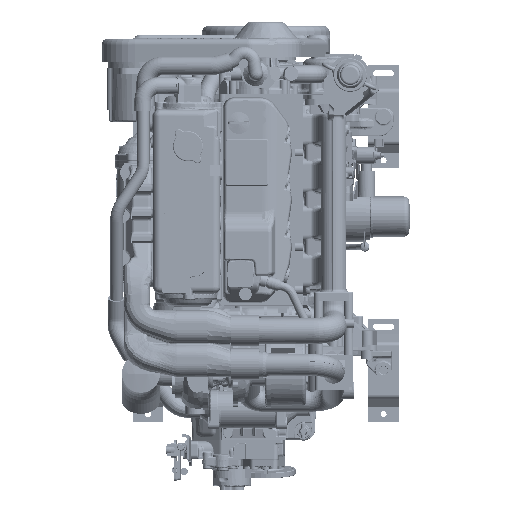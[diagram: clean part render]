
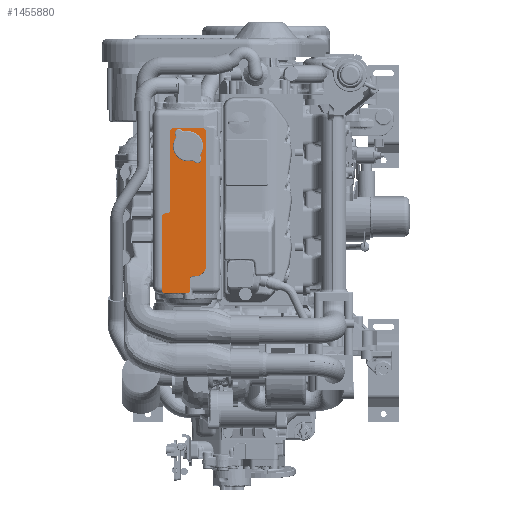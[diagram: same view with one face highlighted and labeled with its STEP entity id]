
A CAD part, top view. The second image highlights one B-rep face of the part: STEP entity #1455880.
In plain terms, the highlighted planar face has unit normal (0, 0, 1) as drawn and (0, 1, 0) by its records, which use the part's own axes.
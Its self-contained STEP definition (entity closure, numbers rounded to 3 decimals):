
#1114920=CARTESIAN_POINT('',(-202.,432.55,44.928));
#1114930=VERTEX_POINT('',#1114920);
#1115110=CARTESIAN_POINT('',(-206.828,432.55,
40.1));
#1115120=VERTEX_POINT('',#1115110);
#1115150=CARTESIAN_POINT('',(-202.,432.55,40.1));
#1115160=DIRECTION('',(0.,-1.,0.));
#1115170=DIRECTION('',(0.,0.,1.));
#1115180=AXIS2_PLACEMENT_3D('',#1115150,#1115160,#1115170);
#1115190=CIRCLE('',#1115180,4.828);
#1115200=EDGE_CURVE('',#1114930,#1115120,#1115190,.T.);
#1244810=CARTESIAN_POINT('',(-151.172,432.55,
17.5));
#1244820=VERTEX_POINT('',#1244810);
#1244900=CARTESIAN_POINT('',(-151.172,432.55,
40.1));
#1244910=VERTEX_POINT('',#1244900);
#1244940=CARTESIAN_POINT('',(-151.172,432.55,
40.15));
#1244950=DIRECTION('',(0.,0.,-1.));
#1244960=VECTOR('',#1244950,1.);
#1244970=LINE('',#1244940,#1244960);
#1244980=EDGE_CURVE('',#1244910,#1244820,#1244970,.T.);
#1299260=CARTESIAN_POINT('',(-182.5,432.55,-275.));
#1299270=DIRECTION('',(0.,-1.,0.))
;
#1299280=DIRECTION('',(0.,0.,1.));
#1299290=AXIS2_PLACEMENT_3D('',#1299260,#1299270,#1299280);
#1299300=CIRCLE('',#1299290,8.828);
#1299310=CARTESIAN_POINT('',(-191.328,432.55,-275.)
);
#1299320=VERTEX_POINT('',#1299310);
#1299330=CARTESIAN_POINT('',(-182.5,432.55,-283.828)
);
#1299340=VERTEX_POINT('',#1299330);
#1299350=EDGE_CURVE('',#1299320,#1299340,#1299300,.T.);
#1319600=CARTESIAN_POINT('',(-206.828,432.55,
-107.5));
#1319610=VERTEX_POINT('',#1319600);
#1319700=CARTESIAN_POINT('',(-201.,432.55,
-113.328));
#1319710=VERTEX_POINT('',#1319700);
#1319740=CARTESIAN_POINT('',(-201.,432.55,-107.5));
#1319750=DIRECTION('',(0.,-1.,0.));
#1319760=DIRECTION('',(-1.,0.,0.));
#1319770=AXIS2_PLACEMENT_3D('',#1319740,#1319750,#1319760);
#1319780=CIRCLE('',#1319770,5.828);
#1319790=EDGE_CURVE('',#1319610,#1319710,#1319780,.T.);
#1333670=CARTESIAN_POINT('',(-197.45,432.55,
-113.328));
#1333680=DIRECTION('',(-1.,0.,0.));
#1333690=VECTOR('',#1333680,1.);
#1333700=LINE('',#1333670,#1333690);
#1333710=CARTESIAN_POINT('',(-197.5,432.55,-113.328))
;
#1333720=VERTEX_POINT('',#1333710);
#1333730=EDGE_CURVE('',#1333720,#1319710,#1333700,.T.);
#1395590=CARTESIAN_POINT('',(-127.45,432.55,
-283.828));
#1395600=DIRECTION('',(-1.,0.,0.));
#1395610=VECTOR('',#1395600,1.);
#1395620=LINE('',#1395590,#1395610);
#1395630=CARTESIAN_POINT('',(-127.5,432.55,-283.828));
#1395640=VERTEX_POINT('',#1395630);
#1395650=EDGE_CURVE('',#1395640,#1299340,#1395620,.T.);
#1448450=CARTESIAN_POINT('',(-191.328,432.55,
-275.05));
#1448460=DIRECTION('',(0.,0.,1.));
#1448470=VECTOR('',#1448460,1.);
#1448480=LINE('',#1448450,#1448470);
#1448490=CARTESIAN_POINT('',(-191.328,432.55,
-119.5));
#1448500=VERTEX_POINT('',#1448490);
#1448510=EDGE_CURVE('',#1299320,#1448500,#1448480,.T.);
#1454860=CARTESIAN_POINT('',(-118.622,432.55,
44.978));
#1454870=DIRECTION('',(0.,1.,0.));
#1454880=DIRECTION('',(1.,0.,0.));
#1454890=AXIS2_PLACEMENT_3D('',#1454860,#1454870,#1454880);
#1454900=PLANE('',#1454890);
#1454910=CARTESIAN_POINT('',(-141.5,432.55,-10.5))
;
#1454920=DIRECTION('',(0.,-1.,0.));
#1454930=DIRECTION('',(0.,0.,1.));
#1454940=AXIS2_PLACEMENT_3D('',#1454910,#1454920,#1454930);
#1454950=CIRCLE('',#1454940,22.828);
#1454960=CARTESIAN_POINT('',(-118.672,432.55,
-10.5));
#1454970=VERTEX_POINT('',#1454960);
#1454980=CARTESIAN_POINT('',(-141.5,432.55,
12.328));
#1454990=VERTEX_POINT('',#1454980);
#1455000=EDGE_CURVE('',#1454970,#1454990,#1454950,.T.);
#1455010=ORIENTED_EDGE('',*,*,#1455000,.F.);
#1455020=CARTESIAN_POINT('',(-146.05,432.55,
12.328));
#1455030=DIRECTION('',(1.,0.,0.));
#1455040=VECTOR('',#1455030,1.);
#1455050=LINE('',#1455020,#1455040);
#1455060=CARTESIAN_POINT('',(-146.,432.55,
12.328));
#1455070=VERTEX_POINT('',#1455060);
#1455080=EDGE_CURVE('',#1455070,#1454990,#1455050,.T.);
#1455090=ORIENTED_EDGE('',*,*,#1455080,.T.);
#1455100=CARTESIAN_POINT('',(-146.,432.55,17.5));
#1455110=DIRECTION('',(0.,1.,0.));
#1455120=DIRECTION('',(1.,0.,0.));
#1455130=AXIS2_PLACEMENT_3D('',#1455100,#1455110,#1455120);
#1455140=CIRCLE('',#1455130,5.172);
#1455150=EDGE_CURVE('',#1455070,#1244820,#1455140,.T.);
#1455160=ORIENTED_EDGE('',*,*,#1455150,.F.);
#1455170=ORIENTED_EDGE('',*,*,#1244980,.T.);
#1455180=CARTESIAN_POINT('',(-156.,432.55,40.1));
#1455190=DIRECTION('',(0.,-1.,0.));
#1455200=DIRECTION('',(-1.,0.,0.));
#1455210=AXIS2_PLACEMENT_3D('',#1455180,#1455190,#1455200);
#1455220=CIRCLE('',#1455210,4.828);
#1455230=CARTESIAN_POINT('',(-156.,432.55,
44.928));
#1455240=VERTEX_POINT('',#1455230);
#1455250=EDGE_CURVE('',#1244910,#1455240,#1455220,.T.);
#1455260=ORIENTED_EDGE('',*,*,#1455250,.F.);
#1455270=CARTESIAN_POINT('',(-202.05,432.55,
44.928));
#1455280=DIRECTION('',(1.,0.,0.));
#1455290=VECTOR('',#1455280,1.);
#1455300=LINE('',#1455270,#1455290);
#1455310=EDGE_CURVE('',#1114930,#1455240,#1455300,.T.);
#1455320=ORIENTED_EDGE('',*,*,#1455310,.T.);
#1455330=ORIENTED_EDGE('',*,*,#1115200,.F.);
#1455340=CARTESIAN_POINT('',(-206.828,432.55,
-107.55));
#1455350=DIRECTION('',(0.,0.,1.));
#1455360=VECTOR('',#1455350,1.);
#1455370=LINE('',#1455340,#1455360);
#1455380=EDGE_CURVE('',#1319610,#1115120,#1455370,.T.);
#1455390=ORIENTED_EDGE('',*,*,#1455380,.T.);
#1455400=ORIENTED_EDGE('',*,*,#1319790,.F.);
#1455410=ORIENTED_EDGE('',*,*,#1333730,.T.);
#1455420=CARTESIAN_POINT('',(-197.5,432.55,-119.5))
;
#1455430=DIRECTION('',(0.,-1.,0.))
;
#1455440=DIRECTION('',(0.,0.,1.));
#1455450=AXIS2_PLACEMENT_3D('',#1455420,#1455430,#1455440);
#1455460=CIRCLE('',#1455450,6.172);
#1455470=EDGE_CURVE('',#1448500,#1333720,#1455460,.T.);
#1455480=ORIENTED_EDGE('',*,*,#1455470,.T.);
#1455490=ORIENTED_EDGE('',*,*,#1448510,.T.);
#1455500=ORIENTED_EDGE('',*,*,#1299350,.F.);
#1455510=ORIENTED_EDGE('',*,*,#1395650,.T.);
#1455520=CARTESIAN_POINT('',(-127.5,432.55,-275.));
#1455530=DIRECTION('',(0.,-1.,0.));
#1455540=DIRECTION('',(0.,0.,1.));
#1455550=AXIS2_PLACEMENT_3D('',#1455520,#1455530,#1455540);
#1455560=CIRCLE('',#1455550,8.828);
#1455570=CARTESIAN_POINT('',(-118.672,432.55,-275.)
);
#1455580=VERTEX_POINT('',#1455570);
#1455590=EDGE_CURVE('',#1395640,#1455580,#1455560,.T.);
#1455600=ORIENTED_EDGE('',*,*,#1455590,.F.);
#1455610=CARTESIAN_POINT('',(-118.672,432.55,
-10.45));
#1455620=DIRECTION('',(0.,0.,-1.));
#1455630=VECTOR('',#1455620,1.);
#1455640=LINE('',#1455610,#1455630);
#1455650=EDGE_CURVE('',#1454970,#1455580,#1455640,.T.);
#1455660=ORIENTED_EDGE('',*,*,#1455650,.T.);
#1455670=EDGE_LOOP('',(#1455660,#1455600,#1455510,#1455500,#1455490,
#1455480,#1455410,#1455400,#1455390,#1455330,#1455320,#1455260,#1455170,
#1455160,#1455090,#1455010));
#1455680=FACE_OUTER_BOUND('',#1455670,.T.);
#1455690=CARTESIAN_POINT('',(-155.,432.55,-247.5));
#1455700=DIRECTION('',(0.,-1.,0.))
;
#1455710=DIRECTION('',(0.,0.,1.));
#1455720=AXIS2_PLACEMENT_3D('',#1455690,#1455700,#1455710);
#1455730=CIRCLE('',#1455720,20.5);
#1455740=CARTESIAN_POINT('',(-134.5,432.55,-247.5));
#1455750=VERTEX_POINT('',#1455740);
#1455760=CARTESIAN_POINT('',(-175.5,432.55,-247.5));
#1455770=VERTEX_POINT('',#1455760);
#1455780=EDGE_CURVE('',#1455750,#1455770,#1455730,.T.);
#1455790=ORIENTED_EDGE('',*,*,#1455780,.T.);
#1455800=CARTESIAN_POINT('',(-166.758,432.55,-264.293)
);
#1455810=VERTEX_POINT('',#1455800);
#1455820=EDGE_CURVE('',#1455810,#1455750,#1455730,.T.);
#1455830=ORIENTED_EDGE('',*,*,#1455820,.T.);
#1455840=EDGE_CURVE('',#1455770,#1455810,#1455730,.T.);
#1455850=ORIENTED_EDGE('',*,*,#1455840,.T.);
#1455860=EDGE_LOOP('',(#1455850,#1455830,#1455790));
#1455870=FACE_BOUND('',#1455860,.T.);
#1455880=ADVANCED_FACE('',(#1455680,#1455870),#1454900,.T.);
